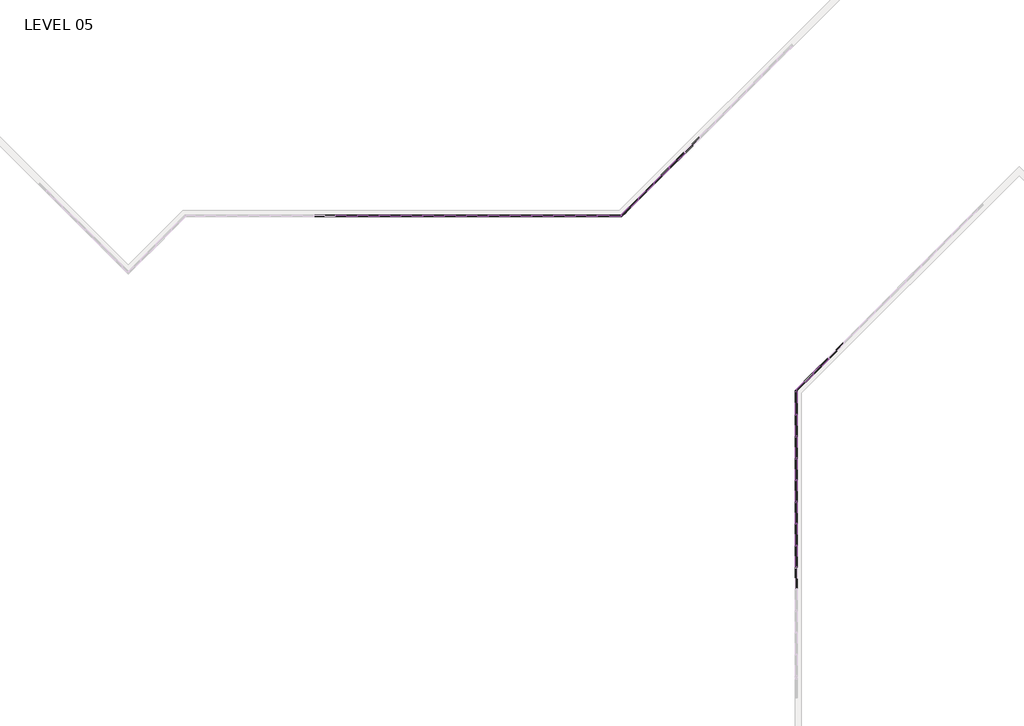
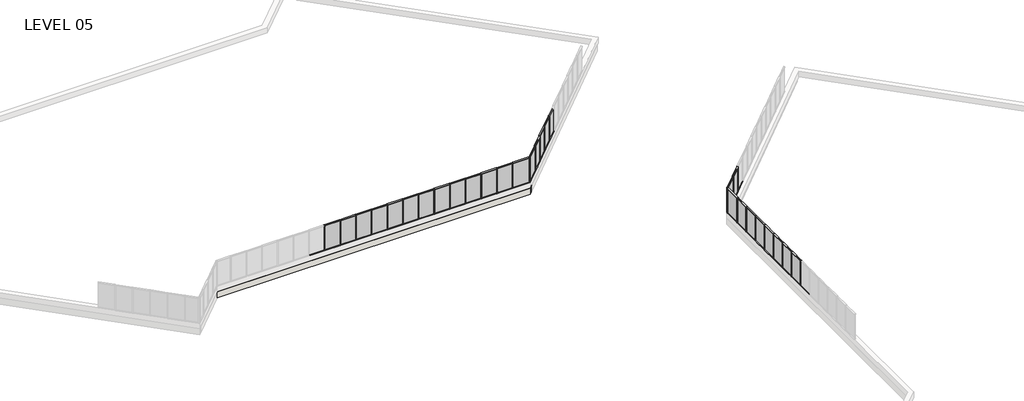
# One storey, part 13 of 17: 89 members, 28 plates, 1 wall.
"""IFC4 building model written with IfcOpenShell, lengths in millimetres."""

from ifc_helpers import new_model, si_unit, origin, place, context, project, spatial, faceted_brep, transform, mapped, element, save
from components import member_5247f267, member_e44af9ab, member_800970d4, member_1bd862b2, member_7ca0f77f, member_c975838b, plate_67294edd, plate_bbcbcabf, plate_e0fd5134, plate_db5d6751

model = new_model("IFC4")

# Units and contexts
model_context = context("Model", 3, world=origin())
ifc_project = project(units=[si_unit("LENGTHUNIT", "METRE", prefix="MILLI")], contexts=[model_context])

# Site, building, storey
site = spatial("IfcSite", under=ifc_project)
building = spatial("IfcBuilding", under=site)
storey = spatial("IfcBuildingStorey", under=building, Name="LEVEL 05", Elevation=15824.2)

# Members
placement = place(None, origin())
member_shape = member_5247f267(model_context)
element("IfcMember", 1, ObjectType="Rectangular Mullion : 2\" x 4.5\" rectangular", at=placement, inside=storey, context=model_context, shape_type="MappedRepresentation", body=[
    mapped(member_shape, transform((38182.55, 88955.8023049, 15824.2), x_axis=(0.0, 0.0, -1.0), y_axis=(0.0, 1.0, 0.0), z_axis=(1.0, 0.0, 0.0))),
])
element("IfcMember", 2, ObjectType="Rectangular Mullion : 2\" x 4.5\" rectangular", at=placement, inside=storey, context=model_context, shape_type="MappedRepresentation", body=[
    mapped(member_shape, transform((36658.55, 88955.8023049, 15824.2), x_axis=(0.0, 0.0, -1.0), y_axis=(0.0, 1.0, 0.0), z_axis=(1.0, 0.0, 0.0))),
])
element("IfcMember", 3, ObjectType="Rectangular Mullion : 2\" x 4.5\" rectangular", at=placement, inside=storey, context=model_context, shape_type="MappedRepresentation", body=[
    mapped(member_shape, transform((35134.55, 88955.8023049, 15824.2), x_axis=(0.0, 0.0, -1.0), y_axis=(0.0, 1.0, 0.0), z_axis=(1.0, 0.0, 0.0))),
])
element("IfcMember", 4, ObjectType="Rectangular Mullion : 2\" x 4.5\" rectangular", at=placement, inside=storey, context=model_context, shape_type="MappedRepresentation", body=[
    mapped(member_shape, transform((32086.55, 88955.8023049, 15824.2), x_axis=(0.0, 0.0, -1.0), y_axis=(0.0, 1.0, 0.0), z_axis=(1.0, 0.0, 0.0))),
])
element("IfcMember", 5, ObjectType="Rectangular Mullion : 2\" x 4.5\" rectangular", at=placement, inside=storey, context=model_context, shape_type="MappedRepresentation", body=[
    mapped(member_shape, transform((30562.55, 88955.8023049, 15824.2), x_axis=(0.0, 0.0, -1.0), y_axis=(0.0, 1.0, 0.0), z_axis=(1.0, 0.0, 0.0))),
])
element("IfcMember", 6, ObjectType="Rectangular Mullion : 2\" x 4.5\" rectangular", at=placement, inside=storey, context=model_context, shape_type="MappedRepresentation", body=[
    mapped(member_shape, transform((29038.55, 88955.8023049, 15824.2), x_axis=(0.0, 0.0, -1.0), y_axis=(0.0, 1.0, 0.0), z_axis=(1.0, 0.0, 0.0))),
])
element("IfcMember", 7, ObjectType="Rectangular Mullion : 2\" x 4.5\" rectangular", at=placement, inside=storey, context=model_context, shape_type="MappedRepresentation", body=[
    mapped(member_shape, transform((33610.55, 88955.8023049, 15824.2), x_axis=(0.0, 0.0, -1.0), y_axis=(0.0, 1.0, 0.0), z_axis=(1.0, 0.0, 0.0))),
])
element("IfcMember", 8, ObjectType="Rectangular Mullion : 2\" x 4.5\" rectangular", at=placement, inside=storey, context=model_context, shape_type="MappedRepresentation", body=[
    mapped(member_shape, transform((39706.55, 88955.8023049, 15824.2), x_axis=(0.0, 0.0, -1.0), y_axis=(0.0, 1.0, 0.0), z_axis=(1.0, 0.0, 0.0))),
])
element("IfcMember", 9, ObjectType="Rectangular Mullion : 2\" x 4.5\" rectangular", at=placement, inside=storey, context=model_context, shape_type="MappedRepresentation", body=[
    mapped(member_shape, transform((41230.55, 88955.8023049, 15824.2), x_axis=(0.0, 0.0, -1.0), y_axis=(0.0, 1.0, 0.0), z_axis=(1.0, 0.0, 0.0))),
])
element("IfcMember", 10, ObjectType="Rectangular Mullion : 2\" x 4.5\" rectangular", at=placement, inside=storey, context=model_context, shape_type="MappedRepresentation", body=[
    mapped(member_shape, transform((42754.55, 88955.8023049, 15824.2), x_axis=(0.0, 0.0, -1.0), y_axis=(0.0, 1.0, 0.0), z_axis=(1.0, 0.0, 0.0))),
])
element("IfcMember", 11, ObjectType="Rectangular Mullion : 2\" x 4.5\" rectangular", at=placement, inside=storey, context=model_context, shape_type="MappedRepresentation", body=[
    mapped(member_shape, transform((44278.55, 88955.8023049, 15824.2), x_axis=(0.0, 0.0, -1.0), y_axis=(0.0, 1.0, 0.0), z_axis=(1.0, 0.0, 0.0))),
])
element("IfcMember", 12, ObjectType="Rectangular Mullion : 2\" x 4.5\" rectangular", at=placement, inside=storey, context=model_context, shape_type="MappedRepresentation", body=[
    mapped(member_shape, transform((45802.55, 88955.8023049, 15824.2), x_axis=(0.0, 0.0, -1.0), y_axis=(0.0, 1.0, 0.0), z_axis=(1.0, 0.0, 0.0))),
])
element("IfcMember", 13, ObjectType="Rectangular Mullion : 2\" x 4.5\" rectangular", at=placement, inside=storey, context=model_context, shape_type="MappedRepresentation", body=[
    mapped(member_shape, transform((47326.55, 88955.8023049, 15824.2), x_axis=(0.0, 0.0, -1.0), y_axis=(0.0, 1.0, 0.0), z_axis=(1.0, 0.0, 0.0))),
])
element("IfcMember", 14, ObjectType="Rectangular Mullion : 2\" x 4.5\" rectangular", at=placement, inside=storey, context=model_context, shape_type="MappedRepresentation", body=[
    mapped(member_shape, transform((51331.7667125, 91245.9128818, 15824.2), x_axis=(0.0, 0.0, -1.0), y_axis=(0.7071067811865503, -0.7071067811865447, 0.0), z_axis=(-0.7071067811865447, -0.7071067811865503, 0.0))),
])
element("IfcMember", 15, ObjectType="Rectangular Mullion : 2\" x 4.5\" rectangular", at=placement, inside=storey, context=model_context, shape_type="MappedRepresentation", body=[
    mapped(member_shape, transform((52409.397447, 92323.5436163, 15824.2), x_axis=(0.0, 0.0, -1.0), y_axis=(0.7071067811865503, -0.7071067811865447, 0.0), z_axis=(-0.7071067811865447, -0.7071067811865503, 0.0))),
])
element("IfcMember", 16, ObjectType="Rectangular Mullion : 2\" x 4.5\" rectangular", at=placement, inside=storey, context=model_context, shape_type="MappedRepresentation", body=[
    mapped(member_shape, transform((53487.0281815, 93401.1743508, 15824.2), x_axis=(0.0, 0.0, -1.0), y_axis=(0.7071067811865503, -0.7071067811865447, 0.0), z_axis=(-0.7071067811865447, -0.7071067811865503, 0.0))),
])
element("IfcMember", 17, ObjectType="Rectangular Mullion : 2\" x 4.5\" rectangular", at=placement, inside=storey, context=model_context, shape_type="MappedRepresentation", body=[
    mapped(member_shape, transform((50254.1359779, 90168.2821472, 15824.2), x_axis=(0.0, 0.0, -1.0), y_axis=(0.7071067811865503, -0.7071067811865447, 0.0), z_axis=(-0.7071067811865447, -0.7071067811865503, 0.0))),
])
element("IfcMember", 18, ObjectType="Rectangular Mullion : 2\" x 4.5\" rectangular", at=placement, inside=storey, context=model_context, shape_type="MappedRepresentation", body=[
    mapped(member_shape, transform((38233.35, 88955.8023049, 18415.0), x_axis=(0.0, 0.0, 1.0), y_axis=(0.0, 1.0, 0.0), z_axis=(-1.0, 0.0, 0.0))),
])
element("IfcMember", 19, ObjectType="Rectangular Mullion : 2\" x 4.5\" rectangular", at=placement, inside=storey, context=model_context, shape_type="MappedRepresentation", body=[
    mapped(member_shape, transform((36709.35, 88955.8023049, 18415.0), x_axis=(0.0, 0.0, 1.0), y_axis=(0.0, 1.0, 0.0), z_axis=(-1.0, 0.0, 0.0))),
])
element("IfcMember", 20, ObjectType="Rectangular Mullion : 2\" x 4.5\" rectangular", at=placement, inside=storey, context=model_context, shape_type="MappedRepresentation", body=[
    mapped(member_shape, transform((35185.35, 88955.8023049, 18415.0), x_axis=(0.0, 0.0, 1.0), y_axis=(0.0, 1.0, 0.0), z_axis=(-1.0, 0.0, 0.0))),
])
element("IfcMember", 21, ObjectType="Rectangular Mullion : 2\" x 4.5\" rectangular", at=placement, inside=storey, context=model_context, shape_type="MappedRepresentation", body=[
    mapped(member_shape, transform((32137.35, 88955.8023049, 18415.0), x_axis=(0.0, 0.0, 1.0), y_axis=(0.0, 1.0, 0.0), z_axis=(-1.0, 0.0, 0.0))),
])
element("IfcMember", 22, ObjectType="Rectangular Mullion : 2\" x 4.5\" rectangular", at=placement, inside=storey, context=model_context, shape_type="MappedRepresentation", body=[
    mapped(member_shape, transform((30613.35, 88955.8023049, 18415.0), x_axis=(0.0, 0.0, 1.0), y_axis=(0.0, 1.0, 0.0), z_axis=(-1.0, 0.0, 0.0))),
])
element("IfcMember", 23, ObjectType="Rectangular Mullion : 2\" x 4.5\" rectangular", at=placement, inside=storey, context=model_context, shape_type="MappedRepresentation", body=[
    mapped(member_shape, transform((29089.35, 88955.8023049, 18415.0), x_axis=(0.0, 0.0, 1.0), y_axis=(0.0, 1.0, 0.0), z_axis=(-1.0, 0.0, 0.0))),
])
element("IfcMember", 24, ObjectType="Rectangular Mullion : 2\" x 4.5\" rectangular", at=placement, inside=storey, context=model_context, shape_type="MappedRepresentation", body=[
    mapped(member_shape, transform((33661.35, 88955.8023049, 18415.0), x_axis=(0.0, 0.0, 1.0), y_axis=(0.0, 1.0, 0.0), z_axis=(-1.0, 0.0, 0.0))),
])
element("IfcMember", 25, ObjectType="Rectangular Mullion : 2\" x 4.5\" rectangular", at=placement, inside=storey, context=model_context, shape_type="MappedRepresentation", body=[
    mapped(member_shape, transform((39757.35, 88955.8023049, 18415.0), x_axis=(0.0, 0.0, 1.0), y_axis=(0.0, 1.0, 0.0), z_axis=(-1.0, 0.0, 0.0))),
])
element("IfcMember", 26, ObjectType="Rectangular Mullion : 2\" x 4.5\" rectangular", at=placement, inside=storey, context=model_context, shape_type="MappedRepresentation", body=[
    mapped(member_shape, transform((41281.35, 88955.8023049, 18415.0), x_axis=(0.0, 0.0, 1.0), y_axis=(0.0, 1.0, 0.0), z_axis=(-1.0, 0.0, 0.0))),
])
element("IfcMember", 27, ObjectType="Rectangular Mullion : 2\" x 4.5\" rectangular", at=placement, inside=storey, context=model_context, shape_type="MappedRepresentation", body=[
    mapped(member_shape, transform((42805.35, 88955.8023049, 18415.0), x_axis=(0.0, 0.0, 1.0), y_axis=(0.0, 1.0, 0.0), z_axis=(-1.0, 0.0, 0.0))),
])
element("IfcMember", 28, ObjectType="Rectangular Mullion : 2\" x 4.5\" rectangular", at=placement, inside=storey, context=model_context, shape_type="MappedRepresentation", body=[
    mapped(member_shape, transform((44329.35, 88955.8023049, 18415.0), x_axis=(0.0, 0.0, 1.0), y_axis=(0.0, 1.0, 0.0), z_axis=(-1.0, 0.0, 0.0))),
])
element("IfcMember", 29, ObjectType="Rectangular Mullion : 2\" x 4.5\" rectangular", at=placement, inside=storey, context=model_context, shape_type="MappedRepresentation", body=[
    mapped(member_shape, transform((45853.35, 88955.8023049, 18415.0), x_axis=(0.0, 0.0, 1.0), y_axis=(0.0, 1.0, 0.0), z_axis=(-1.0, 0.0, 0.0))),
])
element("IfcMember", 30, ObjectType="Rectangular Mullion : 2\" x 4.5\" rectangular", at=placement, inside=storey, context=model_context, shape_type="MappedRepresentation", body=[
    mapped(member_shape, transform((51295.845688, 91209.9918573, 18415.0), x_axis=(0.0, 0.0, 1.0), y_axis=(0.7071067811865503, -0.7071067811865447, 0.0), z_axis=(0.7071067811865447, 0.7071067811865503, 0.0))),
])
element("IfcMember", 31, ObjectType="Rectangular Mullion : 2\" x 4.5\" rectangular", at=placement, inside=storey, context=model_context, shape_type="MappedRepresentation", body=[
    mapped(member_shape, transform((52373.4764225, 92287.6225918, 18415.0), x_axis=(0.0, 0.0, 1.0), y_axis=(0.7071067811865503, -0.7071067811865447, 0.0), z_axis=(0.7071067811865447, 0.7071067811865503, 0.0))),
])
element("IfcMember", 32, ObjectType="Rectangular Mullion : 2\" x 4.5\" rectangular", at=placement, inside=storey, context=model_context, shape_type="MappedRepresentation", body=[
    mapped(member_shape, transform((53451.107157, 93365.2533263, 18415.0), x_axis=(0.0, 0.0, 1.0), y_axis=(0.7071067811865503, -0.7071067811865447, 0.0), z_axis=(0.7071067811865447, 0.7071067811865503, 0.0))),
])
member_2_shape = member_e44af9ab(model_context)
element("IfcMember", 33, ObjectType="Rectangular Mullion : 2\" x 4.5\" rectangular", at=placement, inside=storey, context=model_context, shape_type="MappedRepresentation", body=[
    mapped(member_2_shape, transform((38207.95, 88955.8023049, 15824.2), x_axis=(-1.0, 0.0, 0.0), y_axis=(0.0, 1.0, 0.0), z_axis=(0.0, 0.0, -1.0))),
])
element("IfcMember", 34, ObjectType="Rectangular Mullion : 2\" x 4.5\" rectangular", at=placement, inside=storey, context=model_context, shape_type="MappedRepresentation", body=[
    mapped(member_2_shape, transform((36683.95, 88955.8023049, 15824.2), x_axis=(-1.0, 0.0, 0.0), y_axis=(0.0, 1.0, 0.0), z_axis=(0.0, 0.0, -1.0))),
])
element("IfcMember", 35, ObjectType="Rectangular Mullion : 2\" x 4.5\" rectangular", at=placement, inside=storey, context=model_context, shape_type="MappedRepresentation", body=[
    mapped(member_2_shape, transform((35159.95, 88955.8023049, 15824.2), x_axis=(-1.0, 0.0, 0.0), y_axis=(0.0, 1.0, 0.0), z_axis=(0.0, 0.0, -1.0))),
])
element("IfcMember", 36, ObjectType="Rectangular Mullion : 2\" x 4.5\" rectangular", at=placement, inside=storey, context=model_context, shape_type="MappedRepresentation", body=[
    mapped(member_2_shape, transform((32111.95, 88955.8023049, 15824.2), x_axis=(-1.0, 0.0, 0.0), y_axis=(0.0, 1.0, 0.0), z_axis=(0.0, 0.0, -1.0))),
])
element("IfcMember", 37, ObjectType="Rectangular Mullion : 2\" x 4.5\" rectangular", at=placement, inside=storey, context=model_context, shape_type="MappedRepresentation", body=[
    mapped(member_2_shape, transform((30587.95, 88955.8023049, 15824.2), x_axis=(-1.0, 0.0, 0.0), y_axis=(0.0, 1.0, 0.0), z_axis=(0.0, 0.0, -1.0))),
])
element("IfcMember", 38, ObjectType="Rectangular Mullion : 2\" x 4.5\" rectangular", at=placement, inside=storey, context=model_context, shape_type="MappedRepresentation", body=[
    mapped(member_2_shape, transform((29063.95, 88955.8023049, 15824.2), x_axis=(-1.0, 0.0, 0.0), y_axis=(0.0, 1.0, 0.0), z_axis=(0.0, 0.0, -1.0))),
])
element("IfcMember", 39, ObjectType="Rectangular Mullion : 2\" x 4.5\" rectangular", at=placement, inside=storey, context=model_context, shape_type="MappedRepresentation", body=[
    mapped(member_2_shape, transform((33635.95, 88955.8023049, 15824.2), x_axis=(-1.0, 0.0, 0.0), y_axis=(0.0, 1.0, 0.0), z_axis=(0.0, 0.0, -1.0))),
])
element("IfcMember", 40, ObjectType="Rectangular Mullion : 2\" x 4.5\" rectangular", at=placement, inside=storey, context=model_context, shape_type="MappedRepresentation", body=[
    mapped(member_2_shape, transform((39731.95, 88955.8023049, 15824.2), x_axis=(-1.0, 0.0, 0.0), y_axis=(0.0, 1.0, 0.0), z_axis=(0.0, 0.0, -1.0))),
])
element("IfcMember", 41, ObjectType="Rectangular Mullion : 2\" x 4.5\" rectangular", at=placement, inside=storey, context=model_context, shape_type="MappedRepresentation", body=[
    mapped(member_2_shape, transform((41255.95, 88955.8023049, 15824.2), x_axis=(-1.0, 0.0, 0.0), y_axis=(0.0, 1.0, 0.0), z_axis=(0.0, 0.0, -1.0))),
])
element("IfcMember", 42, ObjectType="Rectangular Mullion : 2\" x 4.5\" rectangular", at=placement, inside=storey, context=model_context, shape_type="MappedRepresentation", body=[
    mapped(member_2_shape, transform((42779.95, 88955.8023049, 15824.2), x_axis=(-1.0, 0.0, 0.0), y_axis=(0.0, 1.0, 0.0), z_axis=(0.0, 0.0, -1.0))),
])
element("IfcMember", 43, ObjectType="Rectangular Mullion : 2\" x 4.5\" rectangular", at=placement, inside=storey, context=model_context, shape_type="MappedRepresentation", body=[
    mapped(member_2_shape, transform((44303.95, 88955.8023049, 15824.2), x_axis=(-1.0, 0.0, 0.0), y_axis=(0.0, 1.0, 0.0), z_axis=(0.0, 0.0, -1.0))),
])
element("IfcMember", 44, ObjectType="Rectangular Mullion : 2\" x 4.5\" rectangular", at=placement, inside=storey, context=model_context, shape_type="MappedRepresentation", body=[
    mapped(member_2_shape, transform((45827.95, 88955.8023049, 15824.2), x_axis=(-1.0, 0.0, 0.0), y_axis=(0.0, 1.0, 0.0), z_axis=(0.0, 0.0, -1.0))),
])
element("IfcMember", 45, ObjectType="Rectangular Mullion : 2\" x 4.5\" rectangular", at=placement, inside=storey, context=model_context, shape_type="MappedRepresentation", body=[
    mapped(member_2_shape, transform((47351.95, 88955.8023049, 15824.2), x_axis=(-1.0, 0.0, 0.0), y_axis=(0.0, 1.0, 0.0), z_axis=(0.0, 0.0, -1.0))),
])
element("IfcMember", 46, ObjectType="Rectangular Mullion : 2\" x 4.5\" rectangular", at=placement, inside=storey, context=model_context, shape_type="MappedRepresentation", body=[
    mapped(member_2_shape, transform((51313.8062002, 91227.9523695, 15824.2), x_axis=(0.7071067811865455, 0.7071067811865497, 0.0), y_axis=(0.7071067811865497, -0.7071067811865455, 0.0), z_axis=(0.0, 0.0, -1.0))),
])
element("IfcMember", 47, ObjectType="Rectangular Mullion : 2\" x 4.5\" rectangular", at=placement, inside=storey, context=model_context, shape_type="MappedRepresentation", body=[
    mapped(member_2_shape, transform((52391.4369347, 92305.583104, 15824.2), x_axis=(0.7071067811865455, 0.7071067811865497, 0.0), y_axis=(0.7071067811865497, -0.7071067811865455, 0.0), z_axis=(0.0, 0.0, -1.0))),
])
element("IfcMember", 48, ObjectType="Rectangular Mullion : 2\" x 4.5\" rectangular", at=placement, inside=storey, context=model_context, shape_type="MappedRepresentation", body=[
    mapped(member_2_shape, transform((53469.0676693, 93383.2138386, 15824.2), x_axis=(0.7071067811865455, 0.7071067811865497, 0.0), y_axis=(0.7071067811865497, -0.7071067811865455, 0.0), z_axis=(0.0, 0.0, -1.0))),
])
element("IfcMember", 49, ObjectType="Rectangular Mullion : 2\" x 4.5\" rectangular", at=placement, inside=storey, context=model_context, shape_type="MappedRepresentation", body=[
    mapped(member_2_shape, transform((50236.1754657, 90150.321635, 15824.2), x_axis=(0.7071067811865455, 0.7071067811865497, 0.0), y_axis=(0.7071067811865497, -0.7071067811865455, 0.0), z_axis=(0.0, 0.0, -1.0))),
])
member_3_shape = member_800970d4(model_context)
element("IfcMember", 50, ObjectType="Rectangular Mullion : 2\" x 4.5\" rectangular", at=placement, inside=storey, context=model_context, shape_type="MappedRepresentation", body=[
    mapped(member_3_shape, transform((49041.6561356, 88955.8023049, 18415.0), x_axis=(1.0, 0.0, 0.0), y_axis=(0.0, 1.0, 0.0), z_axis=(0.0, 0.0, 1.0))),
])
element("IfcMember", 51, ObjectType="Rectangular Mullion : 2\" x 4.5\" rectangular", at=placement, inside=storey, context=model_context, shape_type="MappedRepresentation", body=[
    mapped(member_3_shape, transform((49041.6561356, 88955.8023049, 18415.0), x_axis=(-0.7071067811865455, -0.7071067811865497, 0.0), y_axis=(0.7071067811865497, -0.7071067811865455, 0.0), z_axis=(0.0, 0.0, 1.0))),
])
member_4_shape = member_1bd862b2(model_context)
element("IfcMember", 52, ObjectType="Rectangular Mullion : 2\" x 4.5\" rectangular", at=placement, inside=storey, context=model_context, shape_type="MappedRepresentation", body=[
    mapped(member_4_shape, transform((47377.35, 88955.8023049, 18415.0), x_axis=(0.0, 0.0, 1.0), y_axis=(0.0, 1.0, 0.0), z_axis=(-1.0, 0.0, 0.0))),
])
element("IfcMember", 53, ObjectType="Rectangular Mullion : 2\" x 4.5\" rectangular", at=placement, inside=storey, context=model_context, shape_type="MappedRepresentation", body=[
    mapped(member_4_shape, transform((48990.8561356, 88955.8023049, 15824.2), x_axis=(0.0, 0.0, -1.0), y_axis=(0.0, 1.0, 0.0), z_axis=(1.0, 0.0, 0.0))),
])
member_5_shape = member_7ca0f77f(model_context)
element("IfcMember", 54, ObjectType="Rectangular Mullion : 2\" x 4.5\" rectangular", at=placement, inside=storey, context=model_context, shape_type="MappedRepresentation", body=[
    mapped(member_5_shape, transform((50218.2149534, 90132.3611227, 18415.0), x_axis=(0.0, 0.0, 1.0), y_axis=(0.7071067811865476, -0.7071067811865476, 0.0), z_axis=(0.7071067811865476, 0.7071067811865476, 0.0))),
])
element("IfcMember", 55, ObjectType="Rectangular Mullion : 2\" x 4.5\" rectangular", at=placement, inside=storey, context=model_context, shape_type="MappedRepresentation", body=[
    mapped(member_5_shape, transform((49077.5771601, 88991.7233294, 15824.2), x_axis=(0.0, 0.0, -1.0), y_axis=(0.7071067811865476, -0.7071067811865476, 0.0), z_axis=(-0.7071067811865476, -0.7071067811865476, 0.0))),
])
element("IfcMember", 56, ObjectType="Rectangular Mullion : 2\" x 4.5\" rectangular", at=placement, inside=storey, context=model_context, shape_type="MappedRepresentation", body=[
    mapped(member_shape, transform((61263.7847164, 65925.3675885, 18415.0), x_axis=(0.0, 0.0, 1.0), y_axis=(-1.0, 0.0, 0.0), z_axis=(0.0, -1.0, 0.0))),
])
element("IfcMember", 57, ObjectType="Rectangular Mullion : 2\" x 4.5\" rectangular", at=placement, inside=storey, context=model_context, shape_type="MappedRepresentation", body=[
    mapped(member_shape, transform((61263.7847164, 64401.3675885, 18415.0), x_axis=(0.0, 0.0, 1.0), y_axis=(-1.0, 0.0, 0.0), z_axis=(0.0, -1.0, 0.0))),
])
element("IfcMember", 58, ObjectType="Rectangular Mullion : 2\" x 4.5\" rectangular", at=placement, inside=storey, context=model_context, shape_type="MappedRepresentation", body=[
    mapped(member_shape, transform((61263.7847164, 67449.3675885, 18415.0), x_axis=(0.0, 0.0, 1.0), y_axis=(-1.0, 0.0, 0.0), z_axis=(0.0, -1.0, 0.0))),
])
element("IfcMember", 59, ObjectType="Rectangular Mullion : 2\" x 4.5\" rectangular", at=placement, inside=storey, context=model_context, shape_type="MappedRepresentation", body=[
    mapped(member_shape, transform((61263.7847164, 68973.3675885, 18415.0), x_axis=(0.0, 0.0, 1.0), y_axis=(-1.0, 0.0, 0.0), z_axis=(0.0, -1.0, 0.0))),
])
element("IfcMember", 60, ObjectType="Rectangular Mullion : 2\" x 4.5\" rectangular", at=placement, inside=storey, context=model_context, shape_type="MappedRepresentation", body=[
    mapped(member_shape, transform((61263.7847164, 70497.3675885, 18415.0), x_axis=(0.0, 0.0, 1.0), y_axis=(-1.0, 0.0, 0.0), z_axis=(0.0, -1.0, 0.0))),
])
element("IfcMember", 61, ObjectType="Rectangular Mullion : 2\" x 4.5\" rectangular", at=placement, inside=storey, context=model_context, shape_type="MappedRepresentation", body=[
    mapped(member_shape, transform((61263.7847164, 72021.3675885, 18415.0), x_axis=(0.0, 0.0, 1.0), y_axis=(-1.0, 0.0, 0.0), z_axis=(0.0, -1.0, 0.0))),
])
element("IfcMember", 62, ObjectType="Rectangular Mullion : 2\" x 4.5\" rectangular", at=placement, inside=storey, context=model_context, shape_type="MappedRepresentation", body=[
    mapped(member_shape, transform((61263.7847164, 73545.3675885, 18415.0), x_axis=(0.0, 0.0, 1.0), y_axis=(-1.0, 0.0, 0.0), z_axis=(0.0, -1.0, 0.0))),
])
element("IfcMember", 63, ObjectType="Rectangular Mullion : 2\" x 4.5\" rectangular", at=placement, inside=storey, context=model_context, shape_type="MappedRepresentation", body=[
    mapped(member_shape, transform((63517.9742688, 78987.8632765, 18415.0), x_axis=(0.0, 0.0, 1.0), y_axis=(0.7071067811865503, -0.7071067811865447, 0.0), z_axis=(0.7071067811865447, 0.7071067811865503, 0.0))),
])
element("IfcMember", 64, ObjectType="Rectangular Mullion : 2\" x 4.5\" rectangular", at=placement, inside=storey, context=model_context, shape_type="MappedRepresentation", body=[
    mapped(member_shape, transform((61263.7847164, 65874.5675885, 15824.2), x_axis=(0.0, 0.0, -1.0), y_axis=(-1.0, 0.0, 0.0), z_axis=(0.0, 1.0, 0.0))),
])
element("IfcMember", 65, ObjectType="Rectangular Mullion : 2\" x 4.5\" rectangular", at=placement, inside=storey, context=model_context, shape_type="MappedRepresentation", body=[
    mapped(member_shape, transform((61263.7847164, 64350.5675885, 15824.2), x_axis=(0.0, 0.0, -1.0), y_axis=(-1.0, 0.0, 0.0), z_axis=(0.0, 1.0, 0.0))),
])
element("IfcMember", 66, ObjectType="Rectangular Mullion : 2\" x 4.5\" rectangular", at=placement, inside=storey, context=model_context, shape_type="MappedRepresentation", body=[
    mapped(member_shape, transform((61263.7847164, 67398.5675885, 15824.2), x_axis=(0.0, 0.0, -1.0), y_axis=(-1.0, 0.0, 0.0), z_axis=(0.0, 1.0, 0.0))),
])
element("IfcMember", 67, ObjectType="Rectangular Mullion : 2\" x 4.5\" rectangular", at=placement, inside=storey, context=model_context, shape_type="MappedRepresentation", body=[
    mapped(member_shape, transform((61263.7847164, 68922.5675885, 15824.2), x_axis=(0.0, 0.0, -1.0), y_axis=(-1.0, 0.0, 0.0), z_axis=(0.0, 1.0, 0.0))),
])
element("IfcMember", 68, ObjectType="Rectangular Mullion : 2\" x 4.5\" rectangular", at=placement, inside=storey, context=model_context, shape_type="MappedRepresentation", body=[
    mapped(member_shape, transform((61263.7847164, 70446.5675885, 15824.2), x_axis=(0.0, 0.0, -1.0), y_axis=(-1.0, 0.0, 0.0), z_axis=(0.0, 1.0, 0.0))),
])
element("IfcMember", 69, ObjectType="Rectangular Mullion : 2\" x 4.5\" rectangular", at=placement, inside=storey, context=model_context, shape_type="MappedRepresentation", body=[
    mapped(member_shape, transform((61263.7847164, 71970.5675885, 15824.2), x_axis=(0.0, 0.0, -1.0), y_axis=(-1.0, 0.0, 0.0), z_axis=(0.0, 1.0, 0.0))),
])
element("IfcMember", 70, ObjectType="Rectangular Mullion : 2\" x 4.5\" rectangular", at=placement, inside=storey, context=model_context, shape_type="MappedRepresentation", body=[
    mapped(member_shape, transform((61263.7847164, 73494.5675885, 15824.2), x_axis=(0.0, 0.0, -1.0), y_axis=(-1.0, 0.0, 0.0), z_axis=(0.0, 1.0, 0.0))),
])
element("IfcMember", 71, ObjectType="Rectangular Mullion : 2\" x 4.5\" rectangular", at=placement, inside=storey, context=model_context, shape_type="MappedRepresentation", body=[
    mapped(member_shape, transform((61263.7847164, 75018.5675885, 15824.2), x_axis=(0.0, 0.0, -1.0), y_axis=(-1.0, 0.0, 0.0), z_axis=(0.0, 1.0, 0.0))),
])
element("IfcMember", 72, ObjectType="Rectangular Mullion : 2\" x 4.5\" rectangular", at=placement, inside=storey, context=model_context, shape_type="MappedRepresentation", body=[
    mapped(member_shape, transform((63553.8952932, 79023.784301, 15824.2), x_axis=(0.0, 0.0, -1.0), y_axis=(0.7071067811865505, -0.7071067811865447, 0.0), z_axis=(-0.7071067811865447, -0.7071067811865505, 0.0))),
])
element("IfcMember", 73, ObjectType="Rectangular Mullion : 2\" x 4.5\" rectangular", at=placement, inside=storey, context=model_context, shape_type="MappedRepresentation", body=[
    mapped(member_shape, transform((62476.2645587, 77946.1535665, 15824.2), x_axis=(0.0, 0.0, -1.0), y_axis=(0.7071067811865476, -0.7071067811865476, 0.0), z_axis=(-0.7071067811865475, -0.7071067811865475, 0.0))),
])
element("IfcMember", 74, ObjectType="Rectangular Mullion : 2\" x 4.5\" rectangular", at=placement, inside=storey, context=model_context, shape_type="MappedRepresentation", body=[
    mapped(member_2_shape, transform((61263.7847164, 65899.9675885, 15824.2), x_axis=(0.0, -1.0, 0.0), y_axis=(-1.0, 0.0, 0.0), z_axis=(0.0, 0.0, -1.0))),
])
element("IfcMember", 75, ObjectType="Rectangular Mullion : 2\" x 4.5\" rectangular", at=placement, inside=storey, context=model_context, shape_type="MappedRepresentation", body=[
    mapped(member_2_shape, transform((61263.7847164, 64375.9675885, 15824.2), x_axis=(0.0, -1.0, 0.0), y_axis=(-1.0, 0.0, 0.0), z_axis=(0.0, 0.0, -1.0))),
])
element("IfcMember", 76, ObjectType="Rectangular Mullion : 2\" x 4.5\" rectangular", at=placement, inside=storey, context=model_context, shape_type="MappedRepresentation", body=[
    mapped(member_2_shape, transform((61263.7847164, 67423.9675885, 15824.2), x_axis=(0.0, -1.0, 0.0), y_axis=(-1.0, 0.0, 0.0), z_axis=(0.0, 0.0, -1.0))),
])
element("IfcMember", 77, ObjectType="Rectangular Mullion : 2\" x 4.5\" rectangular", at=placement, inside=storey, context=model_context, shape_type="MappedRepresentation", body=[
    mapped(member_2_shape, transform((61263.7847164, 68947.9675885, 15824.2), x_axis=(0.0, -1.0, 0.0), y_axis=(-1.0, 0.0, 0.0), z_axis=(0.0, 0.0, -1.0))),
])
element("IfcMember", 78, ObjectType="Rectangular Mullion : 2\" x 4.5\" rectangular", at=placement, inside=storey, context=model_context, shape_type="MappedRepresentation", body=[
    mapped(member_2_shape, transform((61263.7847164, 70471.9675885, 15824.2), x_axis=(0.0, -1.0, 0.0), y_axis=(-1.0, 0.0, 0.0), z_axis=(0.0, 0.0, -1.0))),
])
element("IfcMember", 79, ObjectType="Rectangular Mullion : 2\" x 4.5\" rectangular", at=placement, inside=storey, context=model_context, shape_type="MappedRepresentation", body=[
    mapped(member_2_shape, transform((61263.7847164, 71995.9675885, 15824.2), x_axis=(0.0, -1.0, 0.0), y_axis=(-1.0, 0.0, 0.0), z_axis=(0.0, 0.0, -1.0))),
])
element("IfcMember", 80, ObjectType="Rectangular Mullion : 2\" x 4.5\" rectangular", at=placement, inside=storey, context=model_context, shape_type="MappedRepresentation", body=[
    mapped(member_2_shape, transform((61263.7847164, 73519.9675885, 15824.2), x_axis=(0.0, -1.0, 0.0), y_axis=(-1.0, 0.0, 0.0), z_axis=(0.0, 0.0, -1.0))),
])
element("IfcMember", 81, ObjectType="Rectangular Mullion : 2\" x 4.5\" rectangular", at=placement, inside=storey, context=model_context, shape_type="MappedRepresentation", body=[
    mapped(member_2_shape, transform((61263.7847164, 75043.9675885, 15824.2), x_axis=(0.0, -1.0, 0.0), y_axis=(-1.0, 0.0, 0.0), z_axis=(0.0, 0.0, -1.0))),
])
element("IfcMember", 82, ObjectType="Rectangular Mullion : 2\" x 4.5\" rectangular", at=placement, inside=storey, context=model_context, shape_type="MappedRepresentation", body=[
    mapped(member_2_shape, transform((63535.934781, 79005.8237887, 15824.2), x_axis=(0.7071067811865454, 0.7071067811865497, 0.0), y_axis=(0.7071067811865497, -0.7071067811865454, 0.0), z_axis=(0.0, 0.0, -1.0))),
])
element("IfcMember", 83, ObjectType="Rectangular Mullion : 2\" x 4.5\" rectangular", at=placement, inside=storey, context=model_context, shape_type="MappedRepresentation", body=[
    mapped(member_2_shape, transform((62458.3040465, 77928.1930542, 15824.2), x_axis=(0.7071067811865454, 0.7071067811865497, 0.0), y_axis=(0.7071067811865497, -0.7071067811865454, 0.0), z_axis=(0.0, 0.0, -1.0))),
])
element("IfcMember", 84, ObjectType="Rectangular Mullion : 2\" x 4.5\" rectangular", at=placement, inside=storey, context=model_context, shape_type="MappedRepresentation", body=[
    mapped(member_3_shape, transform((61263.7847164, 76733.6737241, 18415.0), x_axis=(0.0, 1.0, 0.0), y_axis=(-1.0, 0.0, 0.0), z_axis=(0.0, 0.0, 1.0))),
])
element("IfcMember", 85, ObjectType="Rectangular Mullion : 2\" x 4.5\" rectangular", at=placement, inside=storey, context=model_context, shape_type="MappedRepresentation", body=[
    mapped(member_3_shape, transform((61263.7847164, 76733.6737241, 18415.0), x_axis=(-0.7071067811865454, -0.7071067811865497, 0.0), y_axis=(0.7071067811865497, -0.7071067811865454, 0.0), z_axis=(0.0, 0.0, 1.0))),
])
element("IfcMember", 86, ObjectType="Rectangular Mullion : 2\" x 4.5\" rectangular", at=placement, inside=storey, context=model_context, shape_type="MappedRepresentation", body=[
    mapped(member_4_shape, transform((61263.7847164, 76682.8737241, 15824.2), x_axis=(0.0, 0.0, -1.0), y_axis=(-1.0, 0.0, 0.0), z_axis=(0.0, 1.0, 0.0))),
])
element("IfcMember", 87, ObjectType="Rectangular Mullion : 2\" x 4.5\" rectangular", at=placement, inside=storey, context=model_context, shape_type="MappedRepresentation", body=[
    mapped(member_4_shape, transform((61263.7847164, 75069.3675885, 18415.0), x_axis=(0.0, 0.0, 1.0), y_axis=(-1.0, 0.0, 0.0), z_axis=(0.0, -1.0, 0.0))),
])
member_6_shape = member_c975838b(model_context)
element("IfcMember", 88, ObjectType="Rectangular Mullion : 2\" x 4.5\" rectangular", at=placement, inside=storey, context=model_context, shape_type="MappedRepresentation", body=[
    mapped(member_6_shape, transform((61299.7057409, 76769.5947486, 15824.2), x_axis=(0.0, 0.0, -1.0), y_axis=(0.7071067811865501, -0.7071067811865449, 0.0), z_axis=(-0.7071067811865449, -0.7071067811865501, 0.0))),
])
element("IfcMember", 89, ObjectType="Rectangular Mullion : 2\" x 4.5\" rectangular", at=placement, inside=storey, context=model_context, shape_type="MappedRepresentation", body=[
    mapped(member_6_shape, transform((62440.3435342, 77910.232542, 18415.0), x_axis=(0.0, 0.0, 1.0), y_axis=(0.7071067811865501, -0.7071067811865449, 0.0), z_axis=(0.7071067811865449, 0.7071067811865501, 0.0))),
])

# Plates
plate_shape = plate_67294edd(model_context)
element("IfcPlate", 90, ObjectType="System Panel : 1/4\" Glass", at=placement, inside=storey, context=model_context, shape_type="MappedRepresentation", body=[
    mapped(plate_shape, transform((37445.95, 88955.8023049, 15875.0), x_axis=(-1.0, 0.0, 0.0), y_axis=(0.0, -1.0, 0.0), z_axis=(0.0, 0.0, 1.0))),
])
element("IfcPlate", 91, ObjectType="System Panel : 1/4\" Glass", at=placement, inside=storey, context=model_context, shape_type="MappedRepresentation", body=[
    mapped(plate_shape, transform((35921.95, 88955.8023049, 15875.0), x_axis=(-1.0, 0.0, 0.0), y_axis=(0.0, -1.0, 0.0), z_axis=(0.0, 0.0, 1.0))),
])
element("IfcPlate", 92, ObjectType="System Panel : 1/4\" Glass", at=placement, inside=storey, context=model_context, shape_type="MappedRepresentation", body=[
    mapped(plate_shape, transform((34397.95, 88955.8023049, 15875.0), x_axis=(-1.0, 0.0, 0.0), y_axis=(0.0, -1.0, 0.0), z_axis=(0.0, 0.0, 1.0))),
])
element("IfcPlate", 93, ObjectType="System Panel : 1/4\" Glass", at=placement, inside=storey, context=model_context, shape_type="MappedRepresentation", body=[
    mapped(plate_shape, transform((31349.95, 88955.8023049, 15875.0), x_axis=(-1.0, 0.0, 0.0), y_axis=(0.0, -1.0, 0.0), z_axis=(0.0, 0.0, 1.0))),
])
element("IfcPlate", 94, ObjectType="System Panel : 1/4\" Glass", at=placement, inside=storey, context=model_context, shape_type="MappedRepresentation", body=[
    mapped(plate_shape, transform((29825.95, 88955.8023049, 15875.0), x_axis=(-1.0, 0.0, 0.0), y_axis=(0.0, -1.0, 0.0), z_axis=(0.0, 0.0, 1.0))),
])
element("IfcPlate", 95, ObjectType="System Panel : 1/4\" Glass", at=placement, inside=storey, context=model_context, shape_type="MappedRepresentation", body=[
    mapped(plate_shape, transform((32873.95, 88955.8023049, 15875.0), x_axis=(-1.0, 0.0, 0.0), y_axis=(0.0, -1.0, 0.0), z_axis=(0.0, 0.0, 1.0))),
])
element("IfcPlate", 96, ObjectType="System Panel : 1/4\" Glass", at=placement, inside=storey, context=model_context, shape_type="MappedRepresentation", body=[
    mapped(plate_shape, transform((38969.95, 88955.8023049, 15875.0), x_axis=(-1.0, 0.0, 0.0), y_axis=(0.0, -1.0, 0.0), z_axis=(0.0, 0.0, 1.0))),
])
element("IfcPlate", 97, ObjectType="System Panel : 1/4\" Glass", at=placement, inside=storey, context=model_context, shape_type="MappedRepresentation", body=[
    mapped(plate_shape, transform((40493.95, 88955.8023049, 15875.0), x_axis=(-1.0, 0.0, 0.0), y_axis=(0.0, -1.0, 0.0), z_axis=(0.0, 0.0, 1.0))),
])
element("IfcPlate", 98, ObjectType="System Panel : 1/4\" Glass", at=placement, inside=storey, context=model_context, shape_type="MappedRepresentation", body=[
    mapped(plate_shape, transform((42017.95, 88955.8023049, 15875.0), x_axis=(-1.0, 0.0, 0.0), y_axis=(0.0, -1.0, 0.0), z_axis=(0.0, 0.0, 1.0))),
])
element("IfcPlate", 99, ObjectType="System Panel : 1/4\" Glass", at=placement, inside=storey, context=model_context, shape_type="MappedRepresentation", body=[
    mapped(plate_shape, transform((43541.95, 88955.8023049, 15875.0), x_axis=(-1.0, 0.0, 0.0), y_axis=(0.0, -1.0, 0.0), z_axis=(0.0, 0.0, 1.0))),
])
element("IfcPlate", 100, ObjectType="System Panel : 1/4\" Glass", at=placement, inside=storey, context=model_context, shape_type="MappedRepresentation", body=[
    mapped(plate_shape, transform((45065.95, 88955.8023049, 15875.0), x_axis=(-1.0, 0.0, 0.0), y_axis=(0.0, -1.0, 0.0), z_axis=(0.0, 0.0, 1.0))),
])
element("IfcPlate", 101, ObjectType="System Panel : 1/4\" Glass", at=placement, inside=storey, context=model_context, shape_type="MappedRepresentation", body=[
    mapped(plate_shape, transform((46589.95, 88955.8023049, 15875.0), x_axis=(-1.0, 0.0, 0.0), y_axis=(0.0, -1.0, 0.0), z_axis=(0.0, 0.0, 1.0))),
])
element("IfcPlate", 102, ObjectType="System Panel : 1/4\" Glass", at=placement, inside=storey, context=model_context, shape_type="MappedRepresentation", body=[
    mapped(plate_shape, transform((51852.6215675, 91766.7677368, 15875.0), x_axis=(0.7071067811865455, 0.7071067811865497, 0.0), y_axis=(-0.7071067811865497, 0.7071067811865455, 0.0), z_axis=(0.0, 0.0, 1.0))),
])
element("IfcPlate", 103, ObjectType="System Panel : 1/4\" Glass", at=placement, inside=storey, context=model_context, shape_type="MappedRepresentation", body=[
    mapped(plate_shape, transform((52930.252302, 92844.3984713, 15875.0), x_axis=(0.7071067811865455, 0.7071067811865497, 0.0), y_axis=(-0.7071067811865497, 0.7071067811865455, 0.0), z_axis=(0.0, 0.0, 1.0))),
])
element("IfcPlate", 104, ObjectType="System Panel : 1/4\" Glass", at=placement, inside=storey, context=model_context, shape_type="MappedRepresentation", body=[
    mapped(plate_shape, transform((50774.990833, 90689.1370023, 15875.0), x_axis=(0.7071067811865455, 0.7071067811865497, 0.0), y_axis=(-0.7071067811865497, 0.7071067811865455, 0.0), z_axis=(0.0, 0.0, 1.0))),
])
plate_2_shape = plate_bbcbcabf(model_context)
element("IfcPlate", 105, ObjectType="System Panel : 1/4\" Glass", at=placement, inside=storey, context=model_context, shape_type="MappedRepresentation", body=[
    mapped(plate_2_shape, transform((48184.1030678, 88955.8023049, 15875.0), x_axis=(-1.0, 0.0, 0.0), y_axis=(0.0, -1.0, 0.0), z_axis=(0.0, 0.0, 1.0))),
])
plate_3_shape = plate_e0fd5134(model_context)
element("IfcPlate", 106, ObjectType="System Panel : 1/4\" Glass", at=placement, inside=storey, context=model_context, shape_type="MappedRepresentation", body=[
    mapped(plate_3_shape, transform((54007.8793361, 93922.0255054, 15875.0), x_axis=(0.7071067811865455, 0.7071067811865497, 0.0), y_axis=(-0.7071067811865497, 0.7071067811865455, 0.0), z_axis=(0.0, 0.0, 1.0))),
])
plate_4_shape = plate_db5d6751(model_context)
element("IfcPlate", 107, ObjectType="System Panel : 1/4\" Glass", at=placement, inside=storey, context=model_context, shape_type="MappedRepresentation", body=[
    mapped(plate_4_shape, transform((49647.8960568, 89562.0422261, 15875.0), x_axis=(0.7071067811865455, 0.7071067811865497, 0.0), y_axis=(-0.7071067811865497, 0.7071067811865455, 0.0), z_axis=(0.0, 0.0, 1.0))),
])
element("IfcPlate", 108, ObjectType="System Panel : 1/4\" Glass", at=placement, inside=storey, context=model_context, shape_type="MappedRepresentation", body=[
    mapped(plate_shape, transform((61263.7847164, 65137.9675885, 15875.0), x_axis=(0.0, -1.0, 0.0), y_axis=(1.0, 0.0, 0.0), z_axis=(0.0, 0.0, 1.0))),
])
element("IfcPlate", 109, ObjectType="System Panel : 1/4\" Glass", at=placement, inside=storey, context=model_context, shape_type="MappedRepresentation", body=[
    mapped(plate_shape, transform((61263.7847164, 66661.9675885, 15875.0), x_axis=(0.0, -1.0, 0.0), y_axis=(1.0, 0.0, 0.0), z_axis=(0.0, 0.0, 1.0))),
])
element("IfcPlate", 110, ObjectType="System Panel : 1/4\" Glass", at=placement, inside=storey, context=model_context, shape_type="MappedRepresentation", body=[
    mapped(plate_shape, transform((61263.7847164, 68185.9675885, 15875.0), x_axis=(0.0, -1.0, 0.0), y_axis=(1.0, 0.0, 0.0), z_axis=(0.0, 0.0, 1.0))),
])
element("IfcPlate", 111, ObjectType="System Panel : 1/4\" Glass", at=placement, inside=storey, context=model_context, shape_type="MappedRepresentation", body=[
    mapped(plate_shape, transform((61263.7847164, 69709.9675885, 15875.0), x_axis=(0.0, -1.0, 0.0), y_axis=(1.0, 0.0, 0.0), z_axis=(0.0, 0.0, 1.0))),
])
element("IfcPlate", 112, ObjectType="System Panel : 1/4\" Glass", at=placement, inside=storey, context=model_context, shape_type="MappedRepresentation", body=[
    mapped(plate_shape, transform((61263.7847164, 71233.9675885, 15875.0), x_axis=(0.0, -1.0, 0.0), y_axis=(1.0, 0.0, 0.0), z_axis=(0.0, 0.0, 1.0))),
])
element("IfcPlate", 113, ObjectType="System Panel : 1/4\" Glass", at=placement, inside=storey, context=model_context, shape_type="MappedRepresentation", body=[
    mapped(plate_shape, transform((61263.7847164, 72757.9675885, 15875.0), x_axis=(0.0, -1.0, 0.0), y_axis=(1.0, 0.0, 0.0), z_axis=(0.0, 0.0, 1.0))),
])
element("IfcPlate", 114, ObjectType="System Panel : 1/4\" Glass", at=placement, inside=storey, context=model_context, shape_type="MappedRepresentation", body=[
    mapped(plate_shape, transform((61263.7847164, 74281.9675885, 15875.0), x_axis=(0.0, -1.0, 0.0), y_axis=(1.0, 0.0, 0.0), z_axis=(0.0, 0.0, 1.0))),
])
element("IfcPlate", 115, ObjectType="System Panel : 1/4\" Glass", at=placement, inside=storey, context=model_context, shape_type="MappedRepresentation", body=[
    mapped(plate_shape, transform((62997.1194137, 78467.0084215, 15875.0), x_axis=(0.7071067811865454, 0.7071067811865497, 0.0), y_axis=(-0.7071067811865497, 0.7071067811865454, 0.0), z_axis=(0.0, 0.0, 1.0))),
])
element("IfcPlate", 116, ObjectType="System Panel : 1/4\" Glass", at=placement, inside=storey, context=model_context, shape_type="MappedRepresentation", body=[
    mapped(plate_2_shape, transform((61263.7847164, 75876.1206563, 15875.0), x_axis=(0.0, -1.0, 0.0), y_axis=(1.0, 0.0, 0.0), z_axis=(0.0, 0.0, 1.0))),
])
element("IfcPlate", 117, ObjectType="System Panel : 1/4\" Glass", at=placement, inside=storey, context=model_context, shape_type="MappedRepresentation", body=[
    mapped(plate_4_shape, transform((61870.0246376, 77339.9136453, 15875.0), x_axis=(0.7071067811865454, 0.7071067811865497, 0.0), y_axis=(-0.7071067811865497, 0.7071067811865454, 0.0), z_axis=(0.0, 0.0, 1.0))),
])

# Wall
element("IfcWall", 118, ObjectType="01-CONCRETE-12", at=placement, inside=storey, context=model_context, shape_type="Brep", body=[
    faceted_brep([(49370.1284407, 89203.4523049, 14643.1), (48939.0761469, 89203.4523049, 14643.1), (48656.8136083, 89203.4523049, 14643.1), (41560.75, 89203.4523049, 14643.1), (40951.15, 89203.4523049, 14643.1), (33940.75, 89203.4523049, 14643.1), (33331.15, 89203.4523049, 14643.1), (26320.75, 89203.4523049, 14643.1), (25711.15, 89203.4523049, 14643.1), (18700.75, 89203.4523049, 14643.1), (18459.0761469, 89203.4523049, 14643.1), (18459.0761469, 89203.4523049, 15265.4), (18700.75, 89203.4523049, 15265.4), (25711.15, 89203.4523049, 15265.4), (26320.75, 89203.4523049, 15265.4), (33331.15, 89203.4523049, 15265.4), (33940.75, 89203.4523049, 15265.4), (40951.15, 89203.4523049, 15265.4), (41560.75, 89203.4523049, 15265.4), (48656.8136083, 89203.4523049, 15265.4), (48939.0761469, 89203.4523049, 15265.4), (49370.1284407, 89203.4523049, 15265.4), (49065.3284407, 88898.6523049, 14643.1), (49065.3284407, 88898.6523049, 15265.4), (18585.3284407, 88898.6523049, 15265.4), (18154.2761469, 88898.6523049, 15265.4), (18154.2761469, 88898.6523049, 14643.1), (18585.3284407, 88898.6523049, 14643.1), (18408.2761469, 89152.6523049, 14643.1), (18408.2761469, 89152.6523049, 15265.4)], [[[0, 1, 2, 3, 4, 5, 6, 7, 8, 9, 10, 11, 12, 13, 14, 15, 16, 17, 18, 19, 20, 21]], [[22, 23, 24, 25, 26, 27]], [[10, 9, 8, 7, 6, 5, 4, 3, 2, 1, 0, 22, 27, 26, 28]], [[21, 20, 19, 18, 17, 16, 15, 14, 13, 12, 11, 29, 25, 24, 23]], [[11, 10, 28, 26, 25, 29]], [[0, 21, 23, 22]]]),
])

save(model, "model.ifc")
